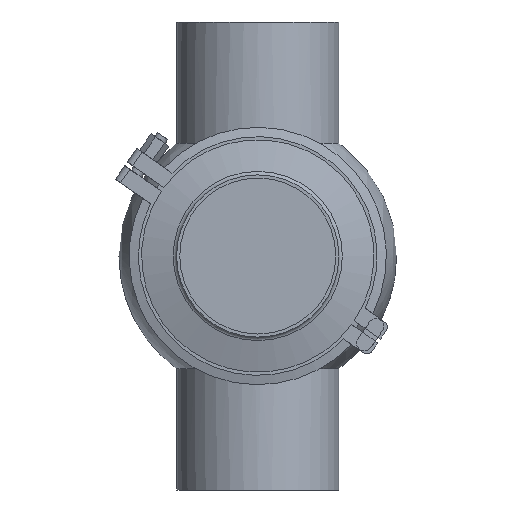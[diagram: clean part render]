
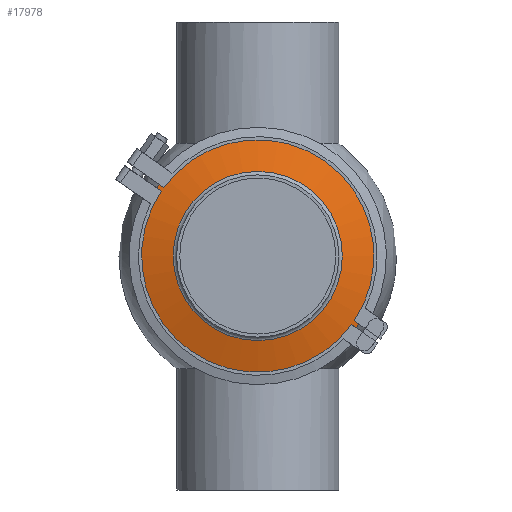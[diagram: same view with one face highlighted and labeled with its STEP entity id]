
A CAD part, front view. The second image highlights one B-rep face of the part: STEP entity #17978.
In plain terms, the highlighted conical face has half-angle 75 degrees and reference radius 78.25 mm.
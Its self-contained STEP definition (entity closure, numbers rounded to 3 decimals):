
#1539 = CARTESIAN_POINT ( 'NONE',  ( 0., -0.938, 54.224 ) ) ;
#1798 = CARTESIAN_POINT ( 'NONE',  ( 0., 5.5, 0. ) ) ;
#2451 = AXIS2_PLACEMENT_3D ( 'NONE', #5752, #18661, #8986 ) ;
#2996 = EDGE_LOOP ( 'NONE', ( #15984 ) ) ;
#4715 = EDGE_LOOP ( 'NONE', ( #19070 ) ) ;
#5752 = CARTESIAN_POINT ( 'NONE',  ( 0., -0.938, 0. ) ) ;
#5826 = EDGE_CURVE ( 'NONE', #14429, #14429, #15174, .T. ) ;
#6503 = DIRECTION ( 'NONE',  ( 0., 0., 1. ) ) ;
#7829 = DIRECTION ( 'NONE',  ( 0., 0., 1. ) ) ;
#8060 = AXIS2_PLACEMENT_3D ( 'NONE', #1798, #16259, #6503 ) ;
#8986 = DIRECTION ( 'NONE',  ( 0., 0., 1. ) ) ;
#9937 = FACE_BOUND ( 'NONE', #4715, .T. ) ;
#10292 = CARTESIAN_POINT ( 'NONE',  ( 0., 5.5, 78.25 ) ) ;
#10687 = AXIS2_PLACEMENT_3D ( 'NONE', #20642, #20744, #7829 ) ;
#14429 = VERTEX_POINT ( 'NONE', #1539 ) ;
#14787 = FACE_OUTER_BOUND ( 'NONE', #2996, .T. ) ;
#15174 = CIRCLE ( 'NONE', #2451, 54.224 ) ;
#15984 = ORIENTED_EDGE ( 'NONE', *, *, #18868, .F. ) ;
#16259 = DIRECTION ( 'NONE',  ( 0., 1., 0. ) ) ;
#16724 = CIRCLE ( 'NONE', #10687, 78.25 ) ;
#17978 = ADVANCED_FACE ( 'NONE', ( #9937, #14787 ), #20475, .T. ) ;
#18661 = DIRECTION ( 'NONE',  ( 0., 1., 0. ) ) ;
#18868 = EDGE_CURVE ( 'NONE', #20178, #20178, #16724, .T. ) ;
#19070 = ORIENTED_EDGE ( 'NONE', *, *, #5826, .T. ) ;
#20178 = VERTEX_POINT ( 'NONE', #10292 ) ;
#20475 = CONICAL_SURFACE ( 'NONE', #8060, 78.25, 1.309 ) ;
#20642 = CARTESIAN_POINT ( 'NONE',  ( 0., 5.5, 0. ) ) ;
#20744 = DIRECTION ( 'NONE',  ( 0., 1., 0. ) ) ;
